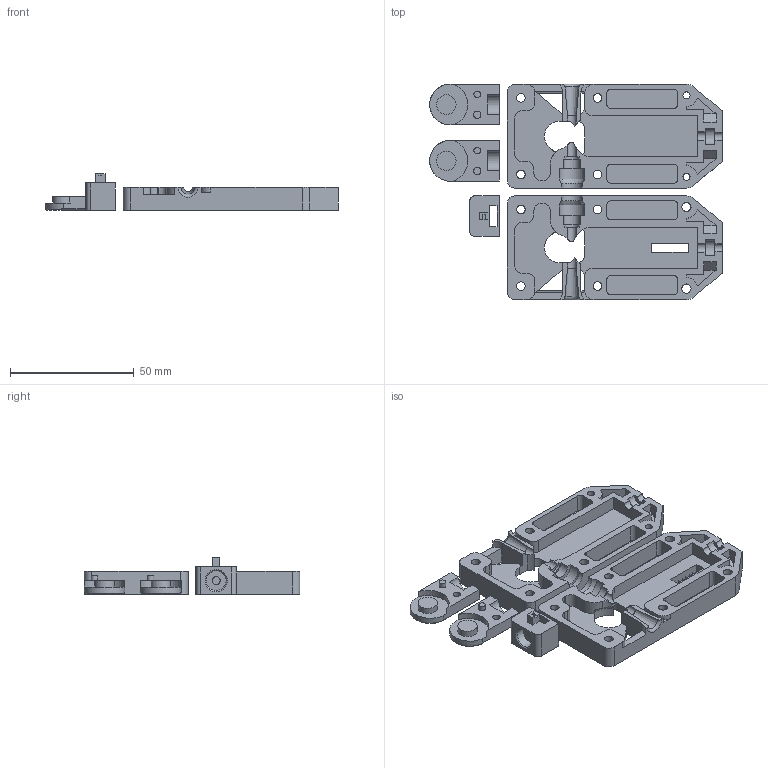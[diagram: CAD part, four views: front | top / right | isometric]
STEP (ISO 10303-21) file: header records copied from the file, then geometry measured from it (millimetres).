
FILE_DESCRIPTION(/* description */ (''),/* implementation_level */ '2;1');
FILE_NAME(/* name */ 'S:\#Projects\SOLIDPRINT\SP3D Feeder (square nut).stp',/* time_stamp */ '2014-09-13T18:07:56-04:00',/* author */ ('Workstation'),/* organization */ (''),/* preprocessor_version */ 'ST-DEVELOPER v15.2',/* originating_system */ 'Autodesk Inventor 2014',/* authorisation */ '');
FILE_SCHEMA (('AUTOMOTIVE_DESIGN { 1 0 10303 214 3 1 1 }'));
Products named in the file (5): bearing_holder; ass_end; Fase6; Fase6_MIR1; Assembly1
Bounding box: 118.42 x 87.17 x 14.85 mm (x, y, z)
Volume: 42708.8 mm3; surface area: 29563.6 mm2
Topology: 5 solids, 5 shells, 354 faces, 1066 edges, 786 vertices
Faces by surface type: plane 218, cylinder 119, cone 13, torus 4
Full cylindrical faces by diameter (mm): 2.7 x2, 2.85 x2, 3 x2, 3.2 x1, 3.5 x8, 3.7 x2, 3.84 x1, 7.9 x2, 8 x1
Entity records: 11769 total; most frequent: CARTESIAN_POINT 2392, DIRECTION 1949, ORIENTED_EDGE 1838, EDGE_CURVE 919, LINE 677, VECTOR 677, AXIS2_PLACEMENT_3D 636, VERTEX_POINT 621
